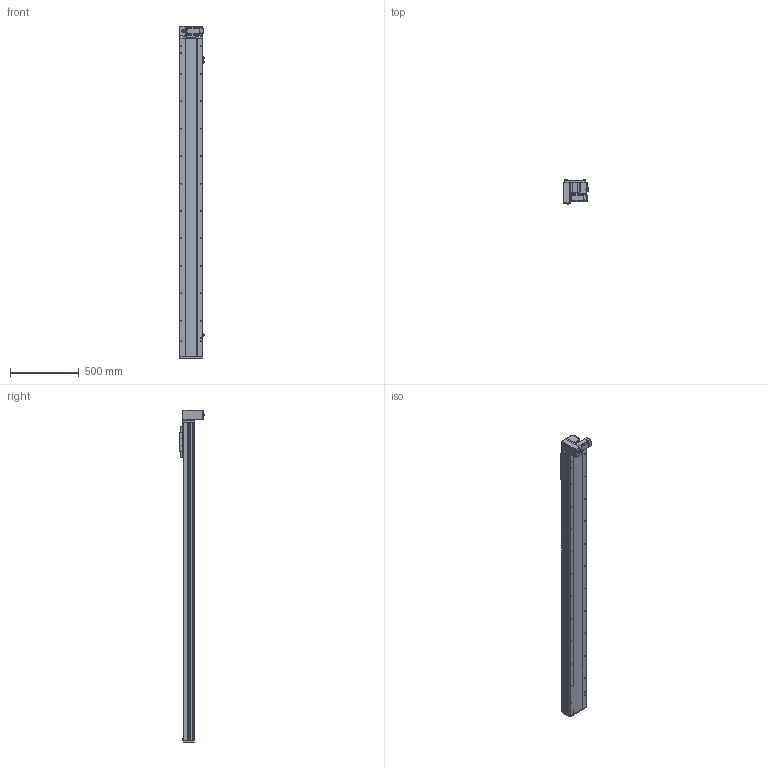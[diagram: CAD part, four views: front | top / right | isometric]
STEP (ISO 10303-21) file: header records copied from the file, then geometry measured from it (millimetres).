
FILE_DESCRIPTION (( 'STEP AP214' ), '1' );
FILE_NAME ('TPE17-L40-2000-LD-T40-C4.STEP', '2023-04-12T01:43:35', ( '' ), ( '' ), 'SwSTEP 2.0', 'SolidWorks 2020', '' );
FILE_SCHEMA (( 'AUTOMOTIVE_DESIGN' ));
Length unit declared in the file: millimetre
Products named in the file (12): 葩璃 侂狟400W^TPE17-L40-LD-T40-C4; 葩璃 TPT14-L-009 萇儂啣^TPE17-L40-LD-T40-C4_400W; 葩璃 詩湍110^TPE17-L40-LD-T40-C4; 葩璃 TPE17 賑雄殤^TPE17-L40-LD-T40-C4; hexagon head bolts-full thread gb_GB_FASTENER_BOLT_STBAB A M5X16-N; hexagon socket head cap screws gb_GB_FASTENER_SCREWS_HSHCS M3X6-N; 葩璃 pm-t65-672^TPE17-L40-LD-T40-C4; 葩璃 TPE17-L-001 菁釱MZ-170-01^TPE17-L40-LD-T40-C4; hex nuts, style 1-grades ab gb_GB_FASTENER_NUT_SNAB1 M3-N; 葩璃 TPE17-L-007 々湍釱MZ-169x88^TPE17-L40-LD-T40-C4_TPE17; TPE17-L40-2000-LD-T40-C4; 葩璃 TPE17-L-002 耜裔ZTMZ-135-04^TPE17-L40-LD-T40-C4
Assembly tree (24 placements, depth 2):
  TPE17-L40-2000-LD-T40-C4
    葩璃 TPE17-L-001 菁釱MZ-170-01^TPE17-L40-LD-T40-C4
    葩璃 TPE17-L-002 耜裔ZTMZ-135-04^TPE17-L40-LD-T40-C4  x2
    葩璃 詩湍110^TPE17-L40-LD-T40-C4
    葩璃 TPE17-L-007 々湍釱MZ-169x88^TPE17-L40-LD-T40-C4_TPE17
    葩璃 TPT14-L-009 萇儂啣^TPE17-L40-LD-T40-C4_400W
    葩璃 TPE17 賑雄殤^TPE17-L40-LD-T40-C4
    葩璃 pm-t65-672^TPE17-L40-LD-T40-C4  x3
    葩璃 侂狟400W^TPE17-L40-LD-T40-C4
    hexagon socket head cap screws gb_GB_FASTENER_SCREWS_HSHCS M3X6-N  x6
    hex nuts, style 1-grades ab gb_GB_FASTENER_NUT_SNAB1 M3-N  x6
    hexagon head bolts-full thread gb_GB_FASTENER_BOLT_STBAB A M5X16-N
Bounding box: 183.7 x 175.15 x 2419 mm (x, y, z)
Volume: 21376421.5 mm3; surface area: 2734965 mm2
Topology: 35 solids, 35 shells, 1738 faces, 4427 edges, 2778 vertices
Faces by surface type: plane 981, cylinder 485, cone 226, bspline 34, torus 12
Entity records: 41111 total; most frequent: CARTESIAN_POINT 7990, DIRECTION 6592, ORIENTED_EDGE 6342, EDGE_CURVE 3171, AXIS2_PLACEMENT_3D 2253, LINE 2086, VECTOR 2086, VERTEX_POINT 2041
